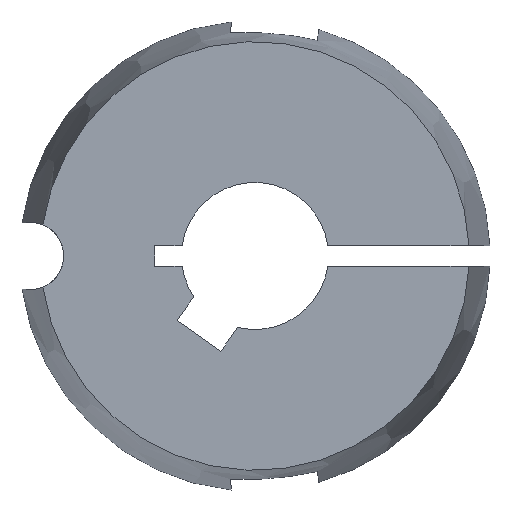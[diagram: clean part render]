
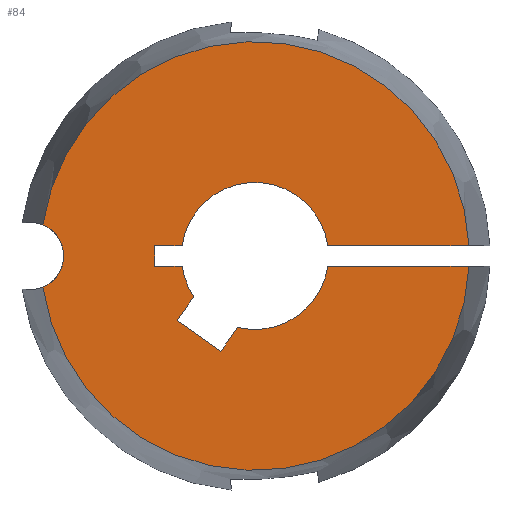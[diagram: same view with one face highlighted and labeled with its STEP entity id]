
A CAD part, left-side view. The second image highlights one B-rep face of the part: STEP entity #84.
In plain terms, the highlighted planar face has unit normal (-1, 0, 0).
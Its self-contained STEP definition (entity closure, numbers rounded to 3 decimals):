
#84 = ADVANCED_FACE( '', ( #114 ), #115, .F. );
#114 = FACE_OUTER_BOUND( '', #154, .T. );
#115 = PLANE( '', #155 );
#154 = EDGE_LOOP( '', ( #251, #252, #253, #254, #255, #256, #257, #258, #259, #260, #261, #262, #263, #264 ) );
#155 = AXIS2_PLACEMENT_3D( '', #265, #266, #267 );
#251 = ORIENTED_EDGE( '', *, *, #349, .T. );
#252 = ORIENTED_EDGE( '', *, *, #381, .F. );
#253 = ORIENTED_EDGE( '', *, *, #352, .T. );
#254 = ORIENTED_EDGE( '', *, *, #365, .T. );
#255 = ORIENTED_EDGE( '', *, *, #363, .T. );
#256 = ORIENTED_EDGE( '', *, *, #360, .T. );
#257 = ORIENTED_EDGE( '', *, *, #369, .T. );
#258 = ORIENTED_EDGE( '', *, *, #382, .T. );
#259 = ORIENTED_EDGE( '', *, *, #383, .T. );
#260 = ORIENTED_EDGE( '', *, *, #384, .T. );
#261 = ORIENTED_EDGE( '', *, *, #385, .T. );
#262 = ORIENTED_EDGE( '', *, *, #386, .T. );
#263 = ORIENTED_EDGE( '', *, *, #354, .T. );
#264 = ORIENTED_EDGE( '', *, *, #387, .F. );
#265 = CARTESIAN_POINT( '', ( -22.3, 0., 0. ) );
#266 = DIRECTION( '', ( 1., 0., 0. ) );
#267 = DIRECTION( '', ( 0., 1., 0. ) );
#349 = EDGE_CURVE( '', #402, #407, #409, .T. );
#352 = EDGE_CURVE( '', #415, #413, #416, .T. );
#354 = EDGE_CURVE( '', #418, #419, #420, .T. );
#360 = EDGE_CURVE( '', #431, #429, #432, .T. );
#363 = EDGE_CURVE( '', #436, #431, #437, .T. );
#365 = EDGE_CURVE( '', #413, #436, #439, .T. );
#369 = EDGE_CURVE( '', #429, #443, #445, .T. );
#381 = EDGE_CURVE( '', #415, #407, #465, .T. );
#382 = EDGE_CURVE( '', #443, #466, #467, .T. );
#383 = EDGE_CURVE( '', #466, #468, #469, .T. );
#384 = EDGE_CURVE( '', #468, #470, #471, .T. );
#385 = EDGE_CURVE( '', #470, #472, #473, .T. );
#386 = EDGE_CURVE( '', #472, #418, #474, .T. );
#387 = EDGE_CURVE( '', #402, #419, #475, .T. );
#402 = VERTEX_POINT( '', #513 );
#407 = VERTEX_POINT( '', #523 );
#409 = CIRCLE( '', #530, 2.55 );
#413 = VERTEX_POINT( '', #535 );
#415 = VERTEX_POINT( '', #538 );
#416 = LINE( '', #539, #540 );
#418 = VERTEX_POINT( '', #548 );
#419 = VERTEX_POINT( '', #549 );
#420 = LINE( '', #550, #551 );
#429 = VERTEX_POINT( '', #569 );
#431 = VERTEX_POINT( '', #572 );
#432 = LINE( '', #573, #574 );
#436 = VERTEX_POINT( '', #580 );
#437 = LINE( '', #581, #582 );
#439 = CIRCLE( '', #585, 5.5 );
#443 = VERTEX_POINT( '', #590 );
#445 = LINE( '', #593, #594 );
#465 = CIRCLE( '', #617, 16.041 );
#466 = VERTEX_POINT( '', #618 );
#467 = CIRCLE( '', #619, 5.5 );
#468 = VERTEX_POINT( '', #620 );
#469 = LINE( '', #621, #622 );
#470 = VERTEX_POINT( '', #623 );
#471 = LINE( '', #624, #625 );
#472 = VERTEX_POINT( '', #626 );
#473 = LINE( '', #627, #628 );
#474 = CIRCLE( '', #629, 5.5 );
#475 = CIRCLE( '', #630, 16.041 );
#513 = CARTESIAN_POINT( '', ( -22.3, 15.868, 2.347 ) );
#523 = CARTESIAN_POINT( '', ( -22.3, 15.868, -2.347 ) );
#530 = AXIS2_PLACEMENT_3D( '', #686, #687, #688 );
#535 = CARTESIAN_POINT( '', ( -22.3, -5.449, -0.75 ) );
#538 = CARTESIAN_POINT( '', ( -22.3, -16.023, -0.75 ) );
#539 = CARTESIAN_POINT( '', ( -22.3, -17.6, -0.75 ) );
#540 = VECTOR( '', #691, 1000. );
#548 = CARTESIAN_POINT( '', ( -22.3, -5.449, 0.75 ) );
#549 = CARTESIAN_POINT( '', ( -22.3, -16.023, 0.75 ) );
#550 = CARTESIAN_POINT( '', ( -22.3, 0., 0.75 ) );
#551 = VECTOR( '', #692, 1000. );
#569 = CARTESIAN_POINT( '', ( -22.3, 5.825, -4.833 ) );
#572 = CARTESIAN_POINT( '', ( -22.3, 2.549, -7.127 ) );
#573 = CARTESIAN_POINT( '', ( -22.3, 2.549, -7.127 ) );
#574 = VECTOR( '', #697, 1000. );
#580 = CARTESIAN_POINT( '', ( -22.3, 1.3, -5.344 ) );
#581 = CARTESIAN_POINT( '', ( -22.3, 1.3, -5.344 ) );
#582 = VECTOR( '', #700, 1000. );
#585 = AXIS2_PLACEMENT_3D( '', #702, #703, #704 );
#590 = CARTESIAN_POINT( '', ( -22.3, 4.577, -3.05 ) );
#593 = CARTESIAN_POINT( '', ( -22.3, 5.825, -4.833 ) );
#594 = VECTOR( '', #710, 1000. );
#617 = AXIS2_PLACEMENT_3D( '', #738, #739, #740 );
#618 = CARTESIAN_POINT( '', ( -22.3, 5.449, -0.75 ) );
#619 = AXIS2_PLACEMENT_3D( '', #741, #742, #743 );
#620 = CARTESIAN_POINT( '', ( -22.3, 7.5, -0.75 ) );
#621 = CARTESIAN_POINT( '', ( -22.3, 0., -0.75 ) );
#622 = VECTOR( '', #744, 1000. );
#623 = CARTESIAN_POINT( '', ( -22.3, 7.5, 0.75 ) );
#624 = CARTESIAN_POINT( '', ( -22.3, 7.5, -0.75 ) );
#625 = VECTOR( '', #745, 1000. );
#626 = CARTESIAN_POINT( '', ( -22.3, 5.449, 0.75 ) );
#627 = CARTESIAN_POINT( '', ( -22.3, 7.5, 0.75 ) );
#628 = VECTOR( '', #746, 1000. );
#629 = AXIS2_PLACEMENT_3D( '', #747, #748, #749 );
#630 = AXIS2_PLACEMENT_3D( '', #750, #751, #752 );
#686 = CARTESIAN_POINT( '', ( -22.3, 16.865, 0. ) );
#687 = DIRECTION( '', ( 1., 0., 0. ) );
#688 = DIRECTION( '', ( 0., 1., 0. ) );
#691 = DIRECTION( '', ( 0., 1., 0. ) );
#692 = DIRECTION( '', ( 0., -1., 0. ) );
#697 = DIRECTION( '', ( 0., 0.819, 0.574 ) );
#700 = DIRECTION( '', ( 0., 0.574, -0.819 ) );
#702 = CARTESIAN_POINT( '', ( -22.3, 0., 0. ) );
#703 = DIRECTION( '', ( 1., 0., 0. ) );
#704 = DIRECTION( '', ( 0., 0., -1. ) );
#710 = DIRECTION( '', ( 0., -0.574, 0.819 ) );
#738 = CARTESIAN_POINT( '', ( -22.3, 0., 0. ) );
#739 = DIRECTION( '', ( 1., 0., 0. ) );
#740 = DIRECTION( '', ( 0., 1., 0. ) );
#741 = CARTESIAN_POINT( '', ( -22.3, 0., 0. ) );
#742 = DIRECTION( '', ( 1., 0., 0. ) );
#743 = DIRECTION( '', ( 0., 0., -1. ) );
#744 = DIRECTION( '', ( 0., 1., 0. ) );
#745 = DIRECTION( '', ( 0., 0., 1. ) );
#746 = DIRECTION( '', ( 0., -1., 0. ) );
#747 = CARTESIAN_POINT( '', ( -22.3, 0., 0. ) );
#748 = DIRECTION( '', ( 1., 0., 0. ) );
#749 = DIRECTION( '', ( 0., 0., -1. ) );
#750 = CARTESIAN_POINT( '', ( -22.3, 0., 0. ) );
#751 = DIRECTION( '', ( 1., 0., 0. ) );
#752 = DIRECTION( '', ( 0., 1., 0. ) );
